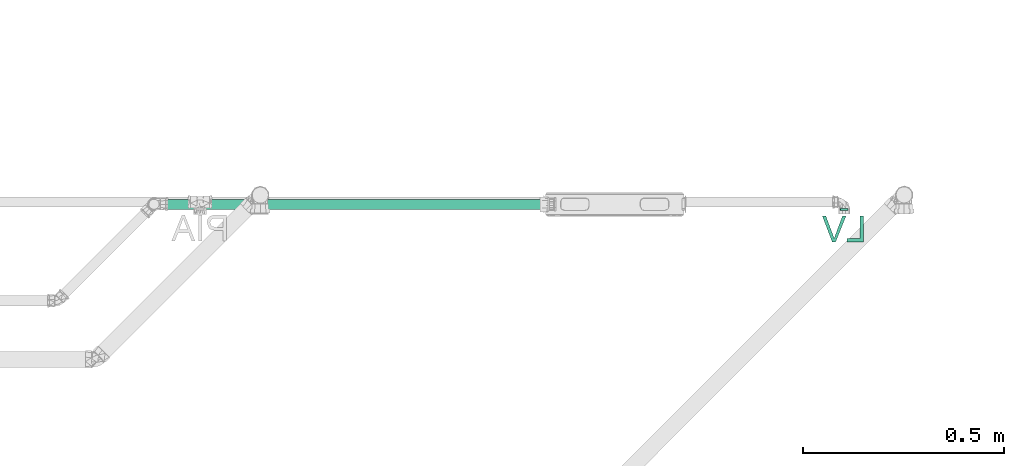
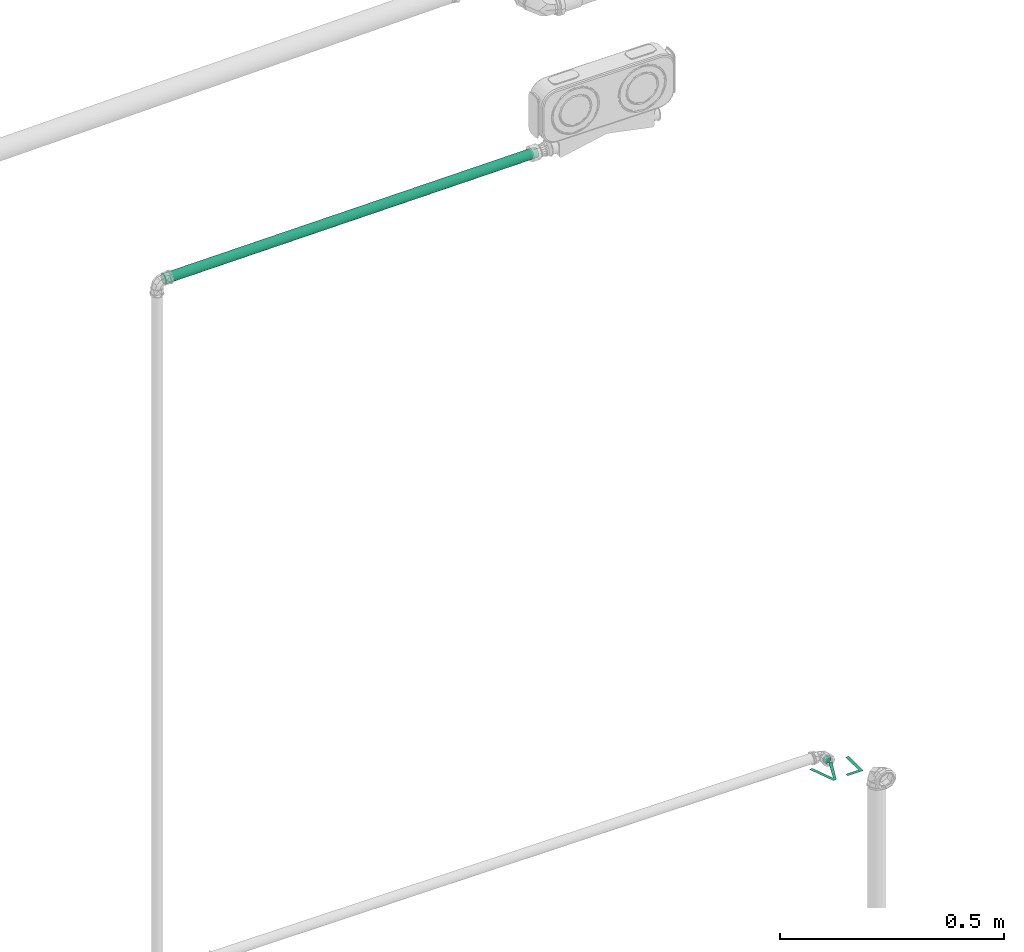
# One storey, part 74 of 589: 1 flow segment, 1 flow terminal.
"""IFC2X3 building model written with IfcOpenShell, lengths in millimetres."""

import ifcopenshell
import ifcopenshell.guid

model = None  # the IFC model being written
_history = None  # IfcOwnerHistory: only IFC2X3 demands one
_inside = {}  # id of a spatial element -> (the spatial element, [elements in it])
_under = {}  # id of a project, library or spatial element -> (it, [spatial elements below it])
_declared = {}  # id of a project -> (the project, [libraries it declares])
_typed = {}  # id of a type object -> (the type object, [elements of that type])
_made_of = {}  # id of a material, layer set ... -> (it, [elements and type objects made of it])


def new_model(schema):
    """Start an empty IFC model of exactly this schema.

    Asked for "IFC4X3", IfcOpenShell would pick the latest addendum, in which some entities
    have other attributes; the version numbers below select the first issue.
    IFC2X3 requires an IfcOwnerHistory on every rooted entity: one is made here for all.
    """
    global model, _history
    if schema == "IFC4X3":
        model = ifcopenshell.file(schema_version=(4, 3, 0, 0))
    else:
        model = ifcopenshell.file(schema=schema)
    _inside.clear()
    _under.clear()
    _declared.clear()
    _typed.clear()
    _made_of.clear()
    _history = None
    if model.schema == "IFC2X3":
        org = make("IfcOrganization", Name="unknown")
        user = make(
            "IfcPersonAndOrganization",
            ThePerson=make("IfcPerson", FamilyName="unknown"),
            TheOrganization=org,
        )
        app = make(
            "IfcApplication",
            ApplicationDeveloper=org,
            Version="unknown",
            ApplicationFullName="unknown",
            ApplicationIdentifier="unknown",
        )
        _history = make(
            "IfcOwnerHistory",
            OwningUser=user,
            OwningApplication=app,
            ChangeAction="ADDED",
            CreationDate=0,
        )
    return model


def make(cls, **values):
    """One entity of the class cls with the attributes given. An attribute that is None is left unset."""
    return model.create_entity(
        cls, **{name: value for name, value in values.items() if value is not None}
    )


def entity(cls, *values):
    """Any entity or typed value of the class cls, its attributes in the order of the schema. None: left unset."""
    e = model.create_entity(cls)
    for i, value in enumerate(values):
        if value is not None:
            e[i] = value
    return e


def rooted(cls, **values):
    """An entity with a GlobalId (a new one), such as an element, a storey or a relation."""
    return make(cls, GlobalId=ifcopenshell.guid.new(), OwnerHistory=_history, **values)


def si_unit(unit_type, name, prefix=None):
    """IfcSIUnit, for example si_unit("LENGTHUNIT", "METRE", prefix="MILLI")."""
    return make("IfcSIUnit", UnitType=unit_type, Prefix=prefix, Name=name)


def converted_unit(unit_type, name, factor, base, dimensions=None, offset=None):
    """IfcConversionBasedUnit, such as the inch: factor (a typed value) times the base unit."""
    return make(
        "IfcConversionBasedUnit"
        if offset is None
        else "IfcConversionBasedUnitWithOffset",
        ConversionOffset=offset,
        Dimensions=None
        if dimensions is None
        else entity("IfcDimensionalExponents", *dimensions),
        UnitType=unit_type,
        Name=name,
        ConversionFactor=make(
            "IfcMeasureWithUnit", ValueComponent=factor, UnitComponent=base
        ),
    )


def derived_unit(unit_type, elements):
    """IfcDerivedUnit: a product of units, each with its exponent."""
    return make(
        "IfcDerivedUnit",
        Elements=[
            make("IfcDerivedUnitElement", Unit=unit, Exponent=power)
            for unit, power in elements
        ],
        UnitType=unit_type,
    )


def assignment(units):
    """IfcUnitAssignment: the units of a project."""
    return None if units is None else make("IfcUnitAssignment", Units=units)


def point(xyz):
    """IfcCartesianPoint."""
    return None if xyz is None else make("IfcCartesianPoint", Coordinates=xyz)


def direction(xyz):
    """IfcDirection."""
    return None if xyz is None else make("IfcDirection", DirectionRatios=xyz)


def frame(location, z_axis=None, x_axis=None):
    """IfcAxis2Placement3D, a coordinate frame: its origin and axes. An axis left out is left unset."""
    return make(
        "IfcAxis2Placement3D",
        Location=point(location),
        Axis=direction(z_axis),
        RefDirection=direction(x_axis),
    )


def frame_2d(location, x_axis=None):
    """IfcAxis2Placement2D, a coordinate frame in the plane: its origin and x axis."""
    return make(
        "IfcAxis2Placement2D", Location=point(location), RefDirection=direction(x_axis)
    )


def origin():
    """The frame at (0, 0, 0) with its axes left unset."""
    return frame((0.0, 0.0, 0.0))


def place(relative_to, where):
    """IfcLocalPlacement: puts the frame where relative to a parent placement (None: the world)."""
    return make(
        "IfcLocalPlacement", PlacementRelTo=relative_to, RelativePlacement=where
    )


def context(
    kind, dimensions, precision=None, world=None, true_north=None, identifier=None
):
    """IfcGeometricRepresentationContext, for example the 3D "Model" context."""
    return make(
        "IfcGeometricRepresentationContext",
        ContextIdentifier=identifier,
        ContextType=kind,
        CoordinateSpaceDimension=dimensions,
        Precision=precision,
        WorldCoordinateSystem=world,
        TrueNorth=true_north,
    )


def subcontext(parent, identifier, kind, view, scale=None):
    """IfcGeometricRepresentationSubContext, for example "Body" below "Model"."""
    return make(
        "IfcGeometricRepresentationSubContext",
        ContextIdentifier=identifier,
        ContextType=kind,
        ParentContext=parent,
        TargetScale=scale,
        TargetView=view,
    )


def project(units=None, contexts=None):
    """IfcProject with its units and contexts."""
    return rooted(
        "IfcProject",
        Name="project",
        RepresentationContexts=contexts,
        UnitsInContext=assignment(units),
    )


def spatial(cls, under=None, at=None, **own):
    """A site, building, storey or space (cls), placed at a placement, below another one or the project."""
    s = rooted(cls, ObjectPlacement=at, **own)
    if under is not None:
        _under.setdefault(under.id(), (under, []))[1].append(s)
    return s


def profile(cls, at=None, kind="AREA", **sizes):
    """A parametric profile (cls). Its sizes go by their IFC names, for example OverallWidth=200.0."""
    return make(cls, ProfileType=kind, Position=at, **sizes)


def circle(**sizes):
    """IfcCircleProfileDef."""
    return profile("IfcCircleProfileDef", **sizes)


def extrude(swept, where, along, depth):
    """IfcExtrudedAreaSolid: the profile swept, set in the frame where, extruded along a direction by depth."""
    return make(
        "IfcExtrudedAreaSolid",
        SweptArea=swept,
        Position=where,
        ExtrudedDirection=direction(along),
        Depth=depth,
    )


def faces_of(points, faces, orient=None, outer=None):
    """IfcFace entities. A face is a list of loops; a loop is a list of indices into points, from 0.

    orient and outer hold one flag for each loop. By default every Orientation is true, the
    first loop of a face is its IfcFaceOuterBound and the others are IfcFaceBound.
    """
    made = []
    for i, loops in enumerate(faces):
        bounds = []
        for j, loop in enumerate(loops):
            is_outer = j == 0 if outer is None else outer[i][j]
            bounds.append(
                make(
                    "IfcFaceOuterBound" if is_outer else "IfcFaceBound",
                    Bound=make("IfcPolyLoop", Polygon=[points[k] for k in loop]),
                    Orientation=True if orient is None else orient[i][j],
                )
            )
        made.append(make("IfcFace", Bounds=bounds))
    return made


def face_set(faces, orient=None, outer=None):
    """The faces of one IfcConnectedFaceSet. surface_model builds it on its shared points."""
    return ("IfcConnectedFaceSet", faces, orient, outer)


def surface_model(cls, points, shells):
    """IfcFaceBasedSurfaceModel or IfcShellBasedSurfaceModel (cls): surfaces that need not close."""
    shared = [point(p) for p in points]
    made = [make(c, CfsFaces=faces_of(shared, fs, o, b)) for c, fs, o, b in shells]
    if cls == "IfcFaceBasedSurfaceModel":
        return make(cls, FbsmFaces=made)
    return make(cls, SbsmBoundary=made)


def shape(context_of_items, identifier, shape_type, items):
    """IfcShapeRepresentation: the items that make up one representation, for example the "Body"."""
    return make(
        "IfcShapeRepresentation",
        ContextOfItems=context_of_items,
        RepresentationIdentifier=identifier,
        RepresentationType=shape_type,
        Items=items,
    )


def source(mapping_origin, context_of_items, identifier, shape_type, items):
    """IfcRepresentationMap: a shape defined once, which mapped items show again and again."""
    return make(
        "IfcRepresentationMap",
        MappingOrigin=mapping_origin,
        MappedRepresentation=shape(context_of_items, identifier, shape_type, items),
    )


def transform(
    local_origin,
    x_axis=None,
    y_axis=None,
    z_axis=None,
    scale=None,
    scale2=None,
    scale3=None,
    uniform=True,
):
    """IfcCartesianTransformationOperator3D, or its non-uniform kind. x_axis, y_axis, z_axis: its Axis1, 2, 3."""
    if uniform:
        return make(
            "IfcCartesianTransformationOperator3D",
            Axis1=direction(x_axis),
            Axis2=direction(y_axis),
            LocalOrigin=point(local_origin),
            Scale=scale,
            Axis3=direction(z_axis),
        )
    return make(
        "IfcCartesianTransformationOperator3DnonUniform",
        Axis1=direction(x_axis),
        Axis2=direction(y_axis),
        LocalOrigin=point(local_origin),
        Scale=scale,
        Axis3=direction(z_axis),
        Scale2=scale2,
        Scale3=scale3,
    )


def mapped(mapping_source, mapping_target):
    """IfcMappedItem: shows the shape of a source again, moved by a transform."""
    return make(
        "IfcMappedItem", MappingSource=mapping_source, MappingTarget=mapping_target
    )


def material(Name=None, Category=None):
    """IfcMaterial."""
    return make("IfcMaterial", Name=Name, Category=Category)


def made_of(thing, what):
    """Note that an element or type object is made of a material, layer set ...; save() writes the relation."""
    if what is not None:
        _made_of.setdefault(what.id(), (what, []))[1].append(thing)
    return thing


def type_object(cls, material=None, **own):
    """A type object (cls), such as IfcWallType, which elements share."""
    return made_of(rooted(cls, **own), material)


def type_shapes(of_type, sources):
    """Give a type object the sources (RepresentationMaps) that its elements show as mapped items."""
    of_type.RepresentationMaps = sources


def element(
    cls,
    number,
    at=None,
    inside=None,
    cuts=None,
    type_object=None,
    material=None,
    context=None,
    identifier="Body",
    shape_type=None,
    held_by="IfcProductDefinitionShape",
    body=None,
    shapes=None,
    **own,
):
    """One element of the class cls, such as IfcWall. Its Tag is "e" and its number.

    at: its placement. inside: the storey or other place that contains it. cuts: it is an
    opening in that element (IfcRelVoidsElement). A single representation is given by context,
    identifier, shape_type and body (its items); several are given by shapes. held_by: the class
    of the entity that holds the representations. save() writes the other relations.
    """
    e = rooted(cls, Tag="e%d" % number, ObjectPlacement=at, **own)
    if body is not None:
        shapes = [shape(context, identifier, shape_type, body)]
    if shapes is not None:
        e.Representation = make(held_by, Representations=shapes)
    if inside is not None:
        _inside.setdefault(inside.id(), (inside, []))[1].append(e)
    if cuts is not None:
        rooted(
            "IfcRelVoidsElement", RelatingBuildingElement=cuts, RelatedOpeningElement=e
        )
    if type_object is not None:
        _typed.setdefault(type_object.id(), (type_object, []))[1].append(e)
    return made_of(e, material)


def aggregate(whole, parts):
    """IfcRelAggregates: a whole, such as a stair, and the parts it consists of."""
    return rooted("IfcRelAggregates", RelatingObject=whole, RelatedObjects=parts)


def save(model, path):
    """Write the relations noted so far, then the file.

    IfcRelAggregates (storeys below a building ...), IfcRelContainedInSpatialStructure (elements
    in a storey), IfcRelDefinesByType, IfcRelAssociatesMaterial and IfcRelDeclares: one each for
    every whole, place, type object, material and project.
    """
    for whole, parts in _under.values():
        aggregate(whole, parts)
    for where, things in _inside.values():
        rooted(
            "IfcRelContainedInSpatialStructure",
            RelatedElements=things,
            RelatingStructure=where,
        )
    for kind, things in _typed.values():
        rooted("IfcRelDefinesByType", RelatedObjects=things, RelatingType=kind)
    for what, things in _made_of.values():
        rooted("IfcRelAssociatesMaterial", RelatedObjects=things, RelatingMaterial=what)
    for by, libraries in _declared.values():
        rooted("IfcRelDeclares", RelatingContext=by, RelatedDefinitions=libraries)
    model.write(path)


model = new_model("IFC2X3")

# Units and contexts
model_context = context("Model", 3, precision=0.01, world=origin(), true_north=direction((6.123031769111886e-17, 1.0)))
body_context = subcontext(model_context, "Body", "Model", "MODEL_VIEW")
ifc_project = project(units=[si_unit("LENGTHUNIT", "METRE", prefix="MILLI"), si_unit("AREAUNIT", "SQUARE_METRE"), si_unit("VOLUMEUNIT", "CUBIC_METRE"), converted_unit("PLANEANGLEUNIT", "DEGREE", entity("IfcRatioMeasure", 0.017453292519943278), si_unit("PLANEANGLEUNIT", "RADIAN"), dimensions=[0, 0, 0, 0, 0, 0, 0]), si_unit("MASSUNIT", "GRAM", prefix="KILO"), derived_unit("MASSDENSITYUNIT", [(si_unit("MASSUNIT", "GRAM", prefix="KILO"), 1), (si_unit("LENGTHUNIT", "METRE"), -3)]), derived_unit("IONCONCENTRATIONUNIT", [(si_unit("MASSUNIT", "GRAM", prefix="KILO"), 1), (si_unit("LENGTHUNIT", "METRE"), -3)]), derived_unit("MOMENTOFINERTIAUNIT", [(si_unit("LENGTHUNIT", "METRE"), 4)]), si_unit("TIMEUNIT", "SECOND"), si_unit("FREQUENCYUNIT", "HERTZ"), si_unit("THERMODYNAMICTEMPERATUREUNIT", "DEGREE_CELSIUS"), derived_unit("THERMALTRANSMITTANCEUNIT", [(si_unit("MASSUNIT", "GRAM", prefix="KILO"), 1), (si_unit("THERMODYNAMICTEMPERATUREUNIT", "KELVIN"), -1), (si_unit("TIMEUNIT", "SECOND"), -3)]), derived_unit("THERMALCONDUCTANCEUNIT", [(si_unit("MASSUNIT", "GRAM", prefix="KILO"), 1), (si_unit("THERMODYNAMICTEMPERATUREUNIT", "KELVIN"), -1), (si_unit("TIMEUNIT", "SECOND"), -3), (si_unit("LENGTHUNIT", "METRE"), 1)]), derived_unit("VOLUMETRICFLOWRATEUNIT", [(si_unit("LENGTHUNIT", "METRE"), 3), (si_unit("TIMEUNIT", "SECOND"), -1)]), derived_unit("MASSFLOWRATEUNIT", [(si_unit("MASSUNIT", "GRAM", prefix="KILO"), 1), (si_unit("TIMEUNIT", "SECOND"), -1)]), derived_unit("ROTATIONALFREQUENCYUNIT", [(si_unit("TIMEUNIT", "SECOND"), -1)]), si_unit("ELECTRICCURRENTUNIT", "AMPERE"), si_unit("ELECTRICVOLTAGEUNIT", "VOLT"), si_unit("POWERUNIT", "WATT"), si_unit("FORCEUNIT", "NEWTON", prefix="KILO"), si_unit("ILLUMINANCEUNIT", "LUX"), si_unit("LUMINOUSFLUXUNIT", "LUMEN"), si_unit("LUMINOUSINTENSITYUNIT", "CANDELA"), derived_unit("USERDEFINED", [(si_unit("MASSUNIT", "GRAM", prefix="KILO"), -1), (si_unit("LENGTHUNIT", "METRE"), -2), (si_unit("TIMEUNIT", "SECOND"), 3), (si_unit("LUMINOUSFLUXUNIT", "LUMEN"), 1)]), derived_unit("USERDEFINED", [(si_unit("MASSUNIT", "GRAM", prefix="KILO"), 1), (si_unit("TIMEUNIT", "SECOND"), -3), (si_unit("LENGTHUNIT", "METRE"), 3), (si_unit("ELECTRICCURRENTUNIT", "AMPERE"), -2)]), derived_unit("SOUNDPOWERUNIT", [(si_unit("MASSUNIT", "GRAM", prefix="KILO"), 1), (si_unit("TIMEUNIT", "SECOND"), -3), (si_unit("LENGTHUNIT", "METRE"), 2)]), derived_unit("SOUNDPRESSUREUNIT", [(si_unit("MASSUNIT", "GRAM", prefix="KILO"), 1), (si_unit("LENGTHUNIT", "METRE"), -1), (si_unit("TIMEUNIT", "SECOND"), -2)]), derived_unit("LINEARVELOCITYUNIT", [(si_unit("LENGTHUNIT", "METRE"), 1), (si_unit("TIMEUNIT", "SECOND"), -1)]), si_unit("PRESSUREUNIT", "PASCAL"), derived_unit("USERDEFINED", [(si_unit("MASSUNIT", "GRAM", prefix="KILO"), 1), (si_unit("LENGTHUNIT", "METRE"), -2), (si_unit("TIMEUNIT", "SECOND"), -2)]), derived_unit("LINEARFORCEUNIT", [(si_unit("MASSUNIT", "GRAM", prefix="KILO"), 1), (si_unit("TIMEUNIT", "SECOND"), -2)]), derived_unit("PLANARFORCEUNIT", [(si_unit("MASSUNIT", "GRAM", prefix="KILO"), 1), (si_unit("LENGTHUNIT", "METRE"), -1), (si_unit("TIMEUNIT", "SECOND"), -2)]), derived_unit("SPECIFICHEATCAPACITYUNIT", [(si_unit("THERMODYNAMICTEMPERATUREUNIT", "KELVIN"), -1), (si_unit("LENGTHUNIT", "METRE"), 2), (si_unit("TIMEUNIT", "SECOND"), -2)]), derived_unit("HEATINGVALUEUNIT", [(si_unit("LENGTHUNIT", "METRE"), 2), (si_unit("TIMEUNIT", "SECOND"), -2)]), derived_unit("VAPORPERMEABILITYUNIT", [(si_unit("LENGTHUNIT", "METRE"), -1), (si_unit("TIMEUNIT", "SECOND"), 1)]), derived_unit("DYNAMICVISCOSITYUNIT", [(si_unit("MASSUNIT", "GRAM", prefix="KILO"), 1), (si_unit("TIMEUNIT", "SECOND"), -1), (si_unit("LENGTHUNIT", "METRE"), -1)]), derived_unit("THERMALEXPANSIONCOEFFICIENTUNIT", [(si_unit("THERMODYNAMICTEMPERATUREUNIT", "KELVIN"), -1)]), derived_unit("MODULUSOFELASTICITYUNIT", [(si_unit("MASSUNIT", "GRAM", prefix="KILO"), 1), (si_unit("LENGTHUNIT", "METRE"), -1), (si_unit("TIMEUNIT", "SECOND"), -2)]), derived_unit("ISOTHERMALMOISTURECAPACITYUNIT", [(si_unit("LENGTHUNIT", "METRE"), 3), (si_unit("MASSUNIT", "GRAM", prefix="KILO"), -1)]), derived_unit("MOISTUREDIFFUSIVITYUNIT", [(si_unit("TIMEUNIT", "SECOND"), -1), (si_unit("LENGTHUNIT", "METRE"), 2)])], contexts=[model_context])

# Site, building, storey
site_placement = place(None, origin())
site = spatial("IfcSite", under=ifc_project, at=site_placement, Name="Default", CompositionType="ELEMENT")
building_placement = place(site_placement, origin())
building = spatial("IfcBuilding", under=site, at=building_placement, CompositionType="ELEMENT")
storey_placement = place(building_placement, frame((0.0, 0.0, 100.0)))
storey = spatial("IfcBuildingStorey", under=building, at=storey_placement, Name="TÉRREO", CompositionType="ELEMENT", Elevation=100.0)

# Flow segment
pipe_segment_type = type_object("IfcPipeSegmentType", Name="Tipos de tubos:PVC Marrom Soldável", PredefinedType="NOTDEFINED")
flow_segment_placement = place(storey_placement, origin())
element("IfcFlowSegment", 1, at=flow_segment_placement, inside=storey, type_object=pipe_segment_type, Name="Tipos de tubos:PVC Marrom Soldável", ObjectType="Tipos de tubos:PVC Marrom Soldável", context=body_context, shape_type="SweptSolid", body=[
    extrude(circle(Radius=12.5, at=frame_2d((0.0, -5.414064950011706e-13), x_axis=(1.0, 0.0))), frame((-6191.63347521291, -4327.625778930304, 2496.9006225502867), z_axis=(0.9999500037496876, 0.0, 0.00999950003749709), x_axis=(0.0, 1.0, 0.0)), (0.0, 0.0, 1.0), 961.6578309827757),
])

# Flow terminal
ifc_material = material(Name="<Unnamed>")
distribution_element_type = type_object("IfcDistributionElementType", Name="Hidráulica_Ponto de Utilização_Uso Provável_Rodrigo MEP:Lavatório LV (Peso 0,3) 60cm do Piso", material=ifc_material)
shared_shape = source(origin(), body_context, "Body", "SurfaceModel", [
    surface_model("IfcFaceBasedSurfaceModel", [(0.0, 83.06704158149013, 11.595272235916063), (0.0, 17.77043998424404, 11.595272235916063), (8.162075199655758, 17.77043998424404, 11.595272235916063), (8.162075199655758, 74.90496638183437, 11.595272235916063), (40.81037599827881, 74.90496638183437, 11.595272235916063), (40.81037599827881, 83.06704158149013, 11.595272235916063), (69.281989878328, 83.06704158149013, 11.595272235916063), (43.29725828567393, 17.77043998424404, 11.595272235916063), (52.03322939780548, 17.77043998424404, 11.595272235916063), (69.42546385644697, 64.81396325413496, 11.595272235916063), (72.94854709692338, 75.41509608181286, 11.595272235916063), (76.4238056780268, 64.81396325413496, 11.595272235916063), (93.86386479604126, 17.77043998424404, 11.595272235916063), (102.59983590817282, 17.77043998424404, 11.595272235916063), (77.71507148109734, 83.06704158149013, 11.595272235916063), (37.95219179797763, 5.0, 11.595272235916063), (38.292933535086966, 5.0, 14.18346268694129), (39.291937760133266, 5.0, 16.595272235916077), (40.88112398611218, 5.0, 18.666340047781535), (42.95219179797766, 5.0, 20.255526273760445), (45.36400134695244, 5.0, 21.254530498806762), (47.952191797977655, 5.0, 21.59527223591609), (50.54038224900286, 5.0, 21.254530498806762), (52.95219179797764, 5.0, 20.255526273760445), (55.023259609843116, 5.0, 18.666340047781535), (56.61244583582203, 5.0, 16.595272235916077), (57.61145006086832, 5.0, 14.18346268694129), (57.95219179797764, 5.0, 11.595272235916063), (57.6114500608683, 5.0, 9.007081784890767), (56.612445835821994, 5.0, 6.595272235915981), (55.02325960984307, 5.0, 4.524204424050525), (52.95219179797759, 5.0, 2.9350181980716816), (50.540382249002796, 5.0, 1.936013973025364), (47.95219179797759, 5.0, 1.5952722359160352), (45.36400134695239, 5.0, 1.936013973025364), (42.952191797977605, 5.0, 2.9350181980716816), (40.88112398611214, 5.0, 4.524204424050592), (39.29193776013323, 5.0, 6.595272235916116), (38.292933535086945, 5.0, 9.007081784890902), (37.95219179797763, 0.0, 11.595272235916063), (38.292933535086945, 0.0, 9.007081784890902), (39.29193776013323, 0.0, 6.595272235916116), (40.88112398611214, 0.0, 4.524204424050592), (42.952191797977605, 0.0, 2.9350181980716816), (45.36400134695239, 0.0, 1.936013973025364), (47.95219179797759, 0.0, 1.5952722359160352), (50.540382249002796, 0.0, 1.936013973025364), (52.95219179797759, 0.0, 2.9350181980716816), (55.02325960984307, 0.0, 4.524204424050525), (56.612445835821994, 0.0, 6.595272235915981), (57.6114500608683, 0.0, 9.007081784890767), (57.95219179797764, 0.0, 11.595272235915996), (57.61145006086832, 0.0, 14.18346268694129), (56.61244583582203, 0.0, 16.595272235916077), (55.023259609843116, 0.0, 18.666340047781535), (52.95219179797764, 0.0, 20.255526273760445), (50.54038224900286, 0.0, 21.254530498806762), (47.952191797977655, 0.0, 21.59527223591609), (45.36400134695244, 0.0, 21.254530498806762), (42.95219179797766, 0.0, 20.255526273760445), (40.88112398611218, 0.0, 18.666340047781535), (39.291937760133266, 0.0, 16.595272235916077), (38.292933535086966, 0.0, 14.18346268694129)], [face_set([[[0, 1, 2, 3, 4, 5]], [[6, 7, 8, 9, 10, 11, 12, 13, 14]]]), face_set([[[15, 16, 17, 18, 19, 20, 21, 22, 23, 24, 25, 26, 27, 28, 29, 30, 31, 32, 33, 34, 35, 36, 37, 38]], [[39, 40, 41, 42, 43, 44, 45, 46, 47, 48, 49, 50, 51, 52, 53, 54, 55, 56, 57, 58, 59, 60, 61, 62]], [[38, 40, 39, 15]], [[37, 41, 40, 38]], [[35, 43, 42, 36]], [[36, 42, 41, 37]], [[34, 44, 43, 35]], [[44, 34, 33, 45]], [[32, 46, 45, 33]], [[31, 47, 46, 32]], [[29, 49, 48, 30]], [[30, 48, 47, 31]], [[28, 50, 49, 29]], [[50, 28, 27, 51]], [[26, 52, 51, 27]], [[25, 53, 52, 26]], [[23, 55, 54, 24]], [[24, 54, 53, 25]], [[22, 56, 55, 23]], [[56, 22, 21, 57]], [[20, 58, 57, 21]], [[19, 59, 58, 20]], [[17, 61, 60, 18]], [[18, 60, 59, 19]], [[16, 62, 61, 17]], [[62, 16, 15, 39]]])]),
])
type_shapes(distribution_element_type, [shared_shape])
flow_terminal_placement = place(storey_placement, frame((-4440.03961803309, -4338.425782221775, 588.4056629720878), z_axis=(0.0, 0.0, 1.0), x_axis=(-1.0, 0.0, 0.0)))
element("IfcFlowTerminal", 2, at=flow_terminal_placement, inside=storey, type_object=distribution_element_type, material=ifc_material, Name="Hidráulica_Ponto de Utilização_Uso Provável_Rodrigo MEP:Lavatório LV (Peso 0,3) 60cm do Piso", ObjectType="Hidráulica_Ponto de Utilização_Uso Provável_Rodrigo MEP:Lavatório LV (Peso 0,3) 60cm do Piso", context=body_context, shape_type="MappedRepresentation", body=[
    mapped(shared_shape, transform((0.0, 0.0, 0.0), scale=1.0)),
])

save(model, "model.ifc")
